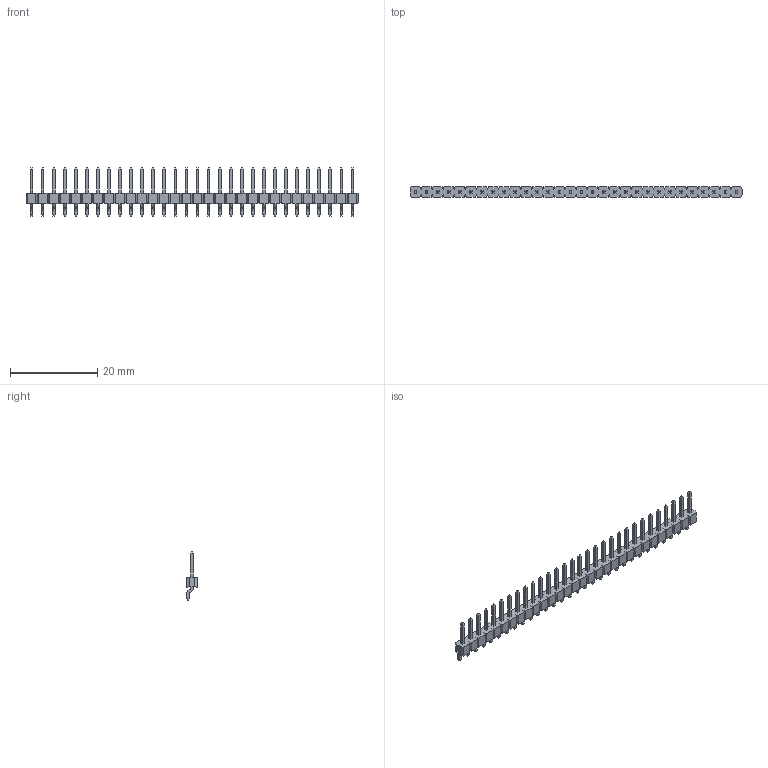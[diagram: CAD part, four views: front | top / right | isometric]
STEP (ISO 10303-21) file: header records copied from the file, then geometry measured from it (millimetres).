
FILE_DESCRIPTION(/* description */ (''),/* implementation_level */ '2;1');
FILE_NAME(/* name */ '961130-5500-XX-XX.stp',/* time_stamp */ '2008-06-11T13:26:33+02:00',/* author */ (''),/* organization */ (''),/* preprocessor_version */ 'ST-DEVELOPER v11',/* originating_system */ 'UGS - NX 5.0',/* authorisation */ '');
FILE_SCHEMA (('AUTOMOTIVE_DESIGN { 1 0 10303 214 1 1 1 1 }'));
Length unit declared in the file: millimetre
Products named in the file (1): 961130-5500-XX-XX
Bounding box: 76.2 x 2.5 x 11.1 mm (x, y, z)
Volume: 508.7 mm3; surface area: 1592.1 mm2
Topology: 1 solids, 1 shells, 1084 faces, 2826 edges, 1804 vertices
Faces by surface type: plane 964, cylinder 120
Entity records: 32454 total; most frequent: CARTESIAN_POINT 5715, ORIENTED_EDGE 5652, DIRECTION 5236, EDGE_CURVE 2826, LINE 2586, VECTOR 2586, VERTEX_POINT 1804, AXIS2_PLACEMENT_3D 1325
